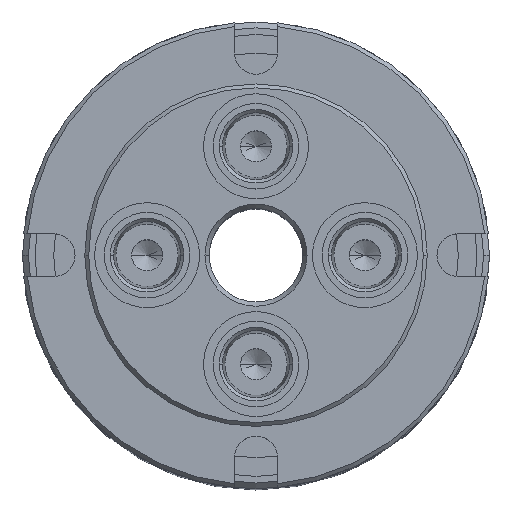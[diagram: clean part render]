
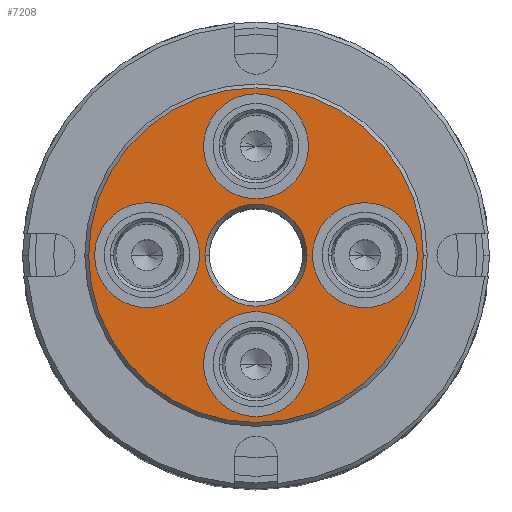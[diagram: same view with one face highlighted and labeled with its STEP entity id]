
A CAD part, top view. The second image highlights one B-rep face of the part: STEP entity #7208.
In plain terms, the highlighted planar face has unit normal (0, 0, 1).
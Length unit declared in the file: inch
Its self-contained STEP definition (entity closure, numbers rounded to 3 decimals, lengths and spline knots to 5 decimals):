
#74 = ORIENTED_EDGE ( 'NONE', *, *, #7172, .F. ) ;
#75 = ORIENTED_EDGE ( 'NONE', *, *, #7169, .T. ) ;
#81 = ORIENTED_EDGE ( 'NONE', *, *, #7322, .F. ) ;
#86 = ORIENTED_EDGE ( 'NONE', *, *, #7280, .T. ) ;
#110 = ORIENTED_EDGE ( 'NONE', *, *, #6986, .F. ) ;
#114 = ORIENTED_EDGE ( 'NONE', *, *, #7501, .T. ) ;
#116 = ORIENTED_EDGE ( 'NONE', *, *, #6910, .F. ) ;
#454 = CARTESIAN_POINT ( 'NONE',  ( 0., 0., 0. ) ) ;
#455 = DIRECTION ( 'NONE',  ( 0., 0., -1. ) ) ;
#456 = DIRECTION ( 'NONE',  ( -1., 0., 0. ) ) ;
#646 = CARTESIAN_POINT ( 'NONE',  ( 0.875, 0., 0. ) ) ;
#647 = DIRECTION ( 'NONE',  ( 0., 0., 1. ) ) ;
#648 = DIRECTION ( 'NONE',  ( 0., -1., 0. ) ) ;
#902 = CARTESIAN_POINT ( 'NONE',  ( 0., 0., 0. ) ) ;
#903 = DIRECTION ( 'NONE',  ( 0., 0., 1. ) ) ;
#904 = DIRECTION ( 'NONE',  ( -1., 0., 0. ) ) ;
#1201 = AXIS2_PLACEMENT_3D ( 'NONE', #6143, #6144, #6145 ) ;
#1220 = CIRCLE ( 'NONE', #1201, 0.41 ) ;
#1278 = VERTEX_POINT ( 'NONE', #1985 ) ;
#1280 = VERTEX_POINT ( 'NONE', #7051 ) ;
#1295 = VERTEX_POINT ( 'NONE', #1991 ) ;
#1309 = VERTEX_POINT ( 'NONE', #1996 ) ;
#1548 = CIRCLE ( 'NONE', #1645, 0.4215 ) ;
#1645 = AXIS2_PLACEMENT_3D ( 'NONE', #4374, #4375, #4376 ) ;
#1734 = VERTEX_POINT ( 'NONE', #2053 ) ;
#1771 = VERTEX_POINT ( 'NONE', #2090 ) ;
#1776 = VERTEX_POINT ( 'NONE', #2095 ) ;
#1799 = VERTEX_POINT ( 'NONE', #2118 ) ;
#1800 = VERTEX_POINT ( 'NONE', #2119 ) ;
#1853 = VERTEX_POINT ( 'NONE', #2172 ) ;
#1854 = VERTEX_POINT ( 'NONE', #2173 ) ;
#1863 = VERTEX_POINT ( 'NONE', #2182 ) ;
#1985 = CARTESIAN_POINT ( 'NONE',  ( 0.4535, 0., 0. ) ) ;
#1991 = CARTESIAN_POINT ( 'NONE',  ( 0.4215, 0.875, 0. ) ) ;
#1996 = CARTESIAN_POINT ( 'NONE',  ( 1.2965, 0., 0. ) ) ;
#2053 = CARTESIAN_POINT ( 'NONE',  ( 0.4215, -0.875, 0. ) ) ;
#2090 = CARTESIAN_POINT ( 'NONE',  ( -1.344, 0., 0. ) ) ;
#2095 = CARTESIAN_POINT ( 'NONE',  ( 1.344, 0., 0. ) ) ;
#2118 = CARTESIAN_POINT ( 'NONE',  ( -0.4535, 0., 0. ) ) ;
#2119 = CARTESIAN_POINT ( 'NONE',  ( -1.2965, 0., 0. ) ) ;
#2172 = CARTESIAN_POINT ( 'NONE',  ( -0.41, 0., 0. ) ) ;
#2173 = CARTESIAN_POINT ( 'NONE',  ( 0.41, 0., 0. ) ) ;
#2182 = CARTESIAN_POINT ( 'NONE',  ( -0.4215, -0.875, 0. ) ) ;
#2605 = CARTESIAN_POINT ( 'NONE',  ( -0.875, 0., 0. ) ) ;
#2606 = DIRECTION ( 'NONE',  ( 0., 0., 1. ) ) ;
#2607 = DIRECTION ( 'NONE',  ( 0., 1., 0. ) ) ;
#3015 = ORIENTED_EDGE ( 'NONE', *, *, #7115, .F. ) ;
#3386 = CIRCLE ( 'NONE', #3725, 0.4215 ) ;
#3442 = CIRCLE ( 'NONE', #4128, 1.344 ) ;
#3522 = AXIS2_PLACEMENT_3D ( 'NONE', #2605, #2606, #2607 ) ;
#3568 = AXIS2_PLACEMENT_3D ( 'NONE', #5080, #5081, #5082 ) ;
#3593 = AXIS2_PLACEMENT_3D ( 'NONE', #4826, #4827, #4828 ) ;
#3669 = CIRCLE ( 'NONE', #3568, 0.4215 ) ;
#3695 = AXIS2_PLACEMENT_3D ( 'NONE', #5335, #5336, #5337 ) ;
#3725 = AXIS2_PLACEMENT_3D ( 'NONE', #646, #647, #648 ) ;
#3726 = CIRCLE ( 'NONE', #4030, 0.4215 ) ;
#3880 = AXIS2_PLACEMENT_3D ( 'NONE', #5027, #5028, #5029 ) ;
#3883 = AXIS2_PLACEMENT_3D ( 'NONE', #5206, #5207, #5208 ) ;
#3917 = CIRCLE ( 'NONE', #3593, 0.4215 ) ;
#3938 = CIRCLE ( 'NONE', #3880, 0.4215 ) ;
#3957 = CIRCLE ( 'NONE', #3695, 1.344 ) ;
#3970 = CIRCLE ( 'NONE', #4053, 0.41 ) ;
#4007 = AXIS2_PLACEMENT_3D ( 'NONE', #5512, #5513, #5514 ) ;
#4030 = AXIS2_PLACEMENT_3D ( 'NONE', #5345, #5346, #5347 ) ;
#4032 = CIRCLE ( 'NONE', #3883, 0.4215 ) ;
#4053 = AXIS2_PLACEMENT_3D ( 'NONE', #454, #455, #456 ) ;
#4082 = CIRCLE ( 'NONE', #3522, 0.4215 ) ;
#4128 = AXIS2_PLACEMENT_3D ( 'NONE', #902, #903, #904 ) ;
#4374 = CARTESIAN_POINT ( 'NONE',  ( 0., 0.875, 0. ) ) ;
#4375 = DIRECTION ( 'NONE',  ( 0., 0., 1. ) ) ;
#4376 = DIRECTION ( 'NONE',  ( 1., 0., 0. ) ) ;
#4826 = CARTESIAN_POINT ( 'NONE',  ( 0., -0.875, 0. ) ) ;
#4827 = DIRECTION ( 'NONE',  ( 0., 0., 1. ) ) ;
#4828 = DIRECTION ( 'NONE',  ( -1., 0., 0. ) ) ;
#5027 = CARTESIAN_POINT ( 'NONE',  ( 0.875, 0., 0. ) ) ;
#5028 = DIRECTION ( 'NONE',  ( 0., 0., 1. ) ) ;
#5029 = DIRECTION ( 'NONE',  ( 0., -1., 0. ) ) ;
#5080 = CARTESIAN_POINT ( 'NONE',  ( 0., -0.875, 0. ) ) ;
#5081 = DIRECTION ( 'NONE',  ( 0., 0., 1. ) ) ;
#5082 = DIRECTION ( 'NONE',  ( -1., 0., 0. ) ) ;
#5206 = CARTESIAN_POINT ( 'NONE',  ( 0., 0.875, 0. ) ) ;
#5207 = DIRECTION ( 'NONE',  ( 0., 0., 1. ) ) ;
#5208 = DIRECTION ( 'NONE',  ( 1., 0., 0. ) ) ;
#5335 = CARTESIAN_POINT ( 'NONE',  ( 0., 0., 0. ) ) ;
#5336 = DIRECTION ( 'NONE',  ( 0., 0., 1. ) ) ;
#5337 = DIRECTION ( 'NONE',  ( -1., 0., 0. ) ) ;
#5345 = CARTESIAN_POINT ( 'NONE',  ( -0.875, 0., 0. ) ) ;
#5346 = DIRECTION ( 'NONE',  ( 0., 0., 1. ) ) ;
#5347 = DIRECTION ( 'NONE',  ( 0., 1., 0. ) ) ;
#5495 = FACE_BOUND ( 'NONE', #7944, .T. ) ;
#5505 = FACE_BOUND ( 'NONE', #7948, .T. ) ;
#5506 = FACE_BOUND ( 'NONE', #7938, .T. ) ;
#5507 = FACE_BOUND ( 'NONE', #7939, .T. ) ;
#5508 = FACE_OUTER_BOUND ( 'NONE', #7945, .T. ) ;
#5509 = FACE_BOUND ( 'NONE', #7936, .T. ) ;
#5510 = PLANE ( 'NONE',  #4007 ) ;
#5512 = CARTESIAN_POINT ( 'NONE',  ( 0., 0., 0. ) ) ;
#5513 = DIRECTION ( 'NONE',  ( 0., 0., -1. ) ) ;
#5514 = DIRECTION ( 'NONE',  ( -1., 0., 0. ) ) ;
#6143 = CARTESIAN_POINT ( 'NONE',  ( 0., 0., 0. ) ) ;
#6144 = DIRECTION ( 'NONE',  ( 0., 0., -1. ) ) ;
#6145 = DIRECTION ( 'NONE',  ( -1., 0., 0. ) ) ;
#6910 = EDGE_CURVE ( 'NONE', #1799, #1800, #4082, .T. ) ;
#6986 = EDGE_CURVE ( 'NONE', #1734, #1863, #3917, .T. ) ;
#6995 = ORIENTED_EDGE ( 'NONE', *, *, #7377, .T. ) ;
#7017 = ORIENTED_EDGE ( 'NONE', *, *, #7638, .F. ) ;
#7021 = ORIENTED_EDGE ( 'NONE', *, *, #7102, .F. ) ;
#7022 = ORIENTED_EDGE ( 'NONE', *, *, #7144, .F. ) ;
#7051 = CARTESIAN_POINT ( 'NONE',  ( -0.4215, 0.875, 0. ) ) ;
#7102 = EDGE_CURVE ( 'NONE', #1309, #1278, #3938, .T. ) ;
#7115 = EDGE_CURVE ( 'NONE', #1863, #1734, #3669, .T. ) ;
#7144 = EDGE_CURVE ( 'NONE', #1280, #1295, #4032, .T. ) ;
#7169 = EDGE_CURVE ( 'NONE', #1776, #1771, #3957, .T. ) ;
#7172 = EDGE_CURVE ( 'NONE', #1800, #1799, #3726, .T. ) ;
#7208 = ADVANCED_FACE ( 'NONE', ( #5495, #5509, #5507, #5505, #5506, #5508 ), #5510, .F. ) ;
#7280 = EDGE_CURVE ( 'NONE', #1853, #1854, #3970, .T. ) ;
#7322 = EDGE_CURVE ( 'NONE', #1278, #1309, #3386, .T. ) ;
#7377 = EDGE_CURVE ( 'NONE', #1771, #1776, #3442, .T. ) ;
#7501 = EDGE_CURVE ( 'NONE', #1854, #1853, #1220, .T. ) ;
#7638 = EDGE_CURVE ( 'NONE', #1295, #1280, #1548, .T. ) ;
#7936 = EDGE_LOOP ( 'NONE', ( #116, #74 ) ) ;
#7938 = EDGE_LOOP ( 'NONE', ( #7017, #7022 ) ) ;
#7939 = EDGE_LOOP ( 'NONE', ( #110, #3015 ) ) ;
#7944 = EDGE_LOOP ( 'NONE', ( #114, #86 ) ) ;
#7945 = EDGE_LOOP ( 'NONE', ( #6995, #75 ) ) ;
#7948 = EDGE_LOOP ( 'NONE', ( #7021, #81 ) ) ;
